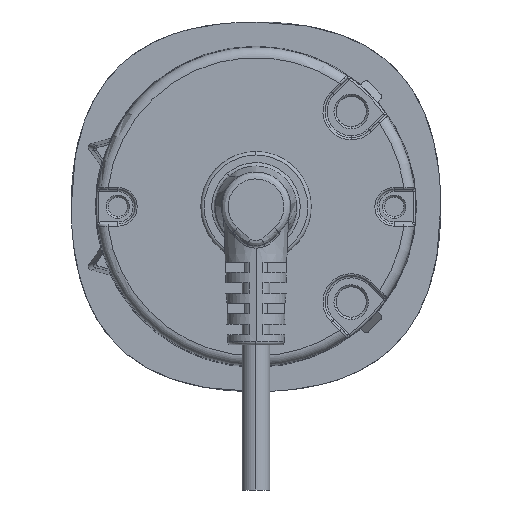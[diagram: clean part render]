
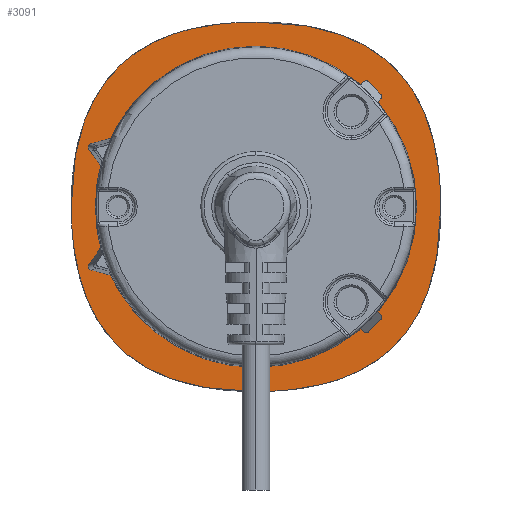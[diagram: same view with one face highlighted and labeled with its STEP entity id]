
A CAD part, front view. The second image highlights one B-rep face of the part: STEP entity #3091.
In plain terms, the highlighted planar face has unit normal (0, -1, 0).
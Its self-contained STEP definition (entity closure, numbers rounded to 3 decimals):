
#2585 = EDGE_CURVE ( 'NONE', #2732, #2731, #18203, .T. ) ;
#2587 = EDGE_CURVE ( 'NONE', #2715, #2716, #19522, .T. ) ;
#2588 = EDGE_CURVE ( 'NONE', #2716, #2718, #19523, .T. ) ;
#2589 = EDGE_CURVE ( 'NONE', #2718, #2717, #19524, .T. ) ;
#2590 = EDGE_CURVE ( 'NONE', #2717, #2715, #19525, .T. ) ;
#2617 = EDGE_CURVE ( 'NONE', #2731, #2732, #18238, .T. ) ;
#2715 = VERTEX_POINT ( 'NONE', #20287 ) ;
#2716 = VERTEX_POINT ( 'NONE', #20288 ) ;
#2717 = VERTEX_POINT ( 'NONE', #20289 ) ;
#2718 = VERTEX_POINT ( 'NONE', #20290 ) ;
#2731 = VERTEX_POINT ( 'NONE', #20303 ) ;
#2732 = VERTEX_POINT ( 'NONE', #20304 ) ;
#2775 = EDGE_LOOP ( 'NONE', ( #2822, #2823, #2824, #2825 ) ) ;
#2779 = EDGE_LOOP ( 'NONE', ( #2826, #2827 ) ) ;
#2822 = ORIENTED_EDGE ( 'NONE', *, *, #2589, .F. ) ;
#2823 = ORIENTED_EDGE ( 'NONE', *, *, #2588, .F. ) ;
#2824 = ORIENTED_EDGE ( 'NONE', *, *, #2587, .F. ) ;
#2825 = ORIENTED_EDGE ( 'NONE', *, *, #2590, .F. ) ;
#2826 = ORIENTED_EDGE ( 'NONE', *, *, #2585, .F. ) ;
#2827 = ORIENTED_EDGE ( 'NONE', *, *, #2617, .F. ) ;
#3091 = ADVANCED_FACE ( 'NONE', ( #18329, #18343 ), #20589, .T. ) ;
#18203 = CIRCLE ( 'NONE', #19254, 23.25 ) ;
#18238 = CIRCLE ( 'NONE', #19259, 23.25 ) ;
#18329 = FACE_OUTER_BOUND ( 'NONE', #2775, .T. ) ;
#18343 = FACE_BOUND ( 'NONE', #2779, .T. ) ;
#19254 = AXIS2_PLACEMENT_3D ( 'NONE', #19739, #19740, #19741 ) ;
#19259 = AXIS2_PLACEMENT_3D ( 'NONE', #20125, #20132, #20133 ) ;
#19284 = AXIS2_PLACEMENT_3D ( 'NONE', #20588, #20597, #20598 ) ;
#19522 = B_SPLINE_CURVE_WITH_KNOTS ( 'NONE', 3,
 ( #19742, #19747, #19748, #19749 ),
 .UNSPECIFIED., .F., .F.,
 ( 4, 4 ),
 ( 0., 1. ),
 .UNSPECIFIED. ) ;
#19523 = B_SPLINE_CURVE_WITH_KNOTS ( 'NONE', 3,
 ( #19745, #19750, #19751, #19752 ),
 .UNSPECIFIED., .F., .F.,
 ( 4, 4 ),
 ( 0., 1. ),
 .UNSPECIFIED. ) ;
#19524 = B_SPLINE_CURVE_WITH_KNOTS ( 'NONE', 3,
 ( #19736, #19754, #19755, #19756 ),
 .UNSPECIFIED., .F., .F.,
 ( 4, 4 ),
 ( 0., 1. ),
 .UNSPECIFIED. ) ;
#19525 = B_SPLINE_CURVE_WITH_KNOTS ( 'NONE', 3,
 ( #19746, #19757, #19758, #19759 ),
 .UNSPECIFIED., .F., .F.,
 ( 4, 4 ),
 ( 0., 1. ),
 .UNSPECIFIED. ) ;
#19736 = CARTESIAN_POINT ( 'NONE',  ( 0., 0., -26.75 ) ) ;
#19739 = CARTESIAN_POINT ( 'NONE',  ( 0., 0., 0. ) ) ;
#19740 = DIRECTION ( 'NONE',  ( 0., -1., 0. ) ) ;
#19741 = DIRECTION ( 'NONE',  ( 0., 0., -1. ) ) ;
#19742 = CARTESIAN_POINT ( 'NONE',  ( 0., 0., 26.75 ) ) ;
#19745 = CARTESIAN_POINT ( 'NONE',  ( 26.75, 0., 0. ) ) ;
#19746 = CARTESIAN_POINT ( 'NONE',  ( -26.75, 0., 0. ) ) ;
#19747 = CARTESIAN_POINT ( 'NONE',  ( 13.667, 0., 26.75 ) ) ;
#19748 = CARTESIAN_POINT ( 'NONE',  ( 26.75, 0., 21.667 ) ) ;
#19749 = CARTESIAN_POINT ( 'NONE',  ( 26.75, 0., 0. ) ) ;
#19750 = CARTESIAN_POINT ( 'NONE',  ( 26.75, 0., -21.667 ) ) ;
#19751 = CARTESIAN_POINT ( 'NONE',  ( 13.667, 0., -26.75 ) ) ;
#19752 = CARTESIAN_POINT ( 'NONE',  ( 0., 0., -26.75 ) ) ;
#19754 = CARTESIAN_POINT ( 'NONE',  ( -13.667, 0., -26.75 ) ) ;
#19755 = CARTESIAN_POINT ( 'NONE',  ( -26.75, 0., -21.667 ) ) ;
#19756 = CARTESIAN_POINT ( 'NONE',  ( -26.75, 0., 0. ) ) ;
#19757 = CARTESIAN_POINT ( 'NONE',  ( -26.75, 0., 21.667 ) ) ;
#19758 = CARTESIAN_POINT ( 'NONE',  ( -13.667, 0., 26.75 ) ) ;
#19759 = CARTESIAN_POINT ( 'NONE',  ( 0., 0., 26.75 ) ) ;
#20125 = CARTESIAN_POINT ( 'NONE',  ( 0., 0., 0. ) ) ;
#20132 = DIRECTION ( 'NONE',  ( 0., -1., 0. ) ) ;
#20133 = DIRECTION ( 'NONE',  ( 0., 0., -1. ) ) ;
#20287 = CARTESIAN_POINT ( 'NONE',  ( 0., 0., 26.75 ) ) ;
#20288 = CARTESIAN_POINT ( 'NONE',  ( 26.75, 0., 0. ) ) ;
#20289 = CARTESIAN_POINT ( 'NONE',  ( -26.75, 0., 0. ) ) ;
#20290 = CARTESIAN_POINT ( 'NONE',  ( 0., 0., -26.75 ) ) ;
#20303 = CARTESIAN_POINT ( 'NONE',  ( 0., 0., -23.25 ) ) ;
#20304 = CARTESIAN_POINT ( 'NONE',  ( 0., 0., 23.25 ) ) ;
#20588 = CARTESIAN_POINT ( 'NONE',  ( -18.5, 0., -21.5 ) ) ;
#20589 = PLANE ( 'NONE',  #19284 ) ;
#20597 = DIRECTION ( 'NONE',  ( 0., -1., 0. ) ) ;
#20598 = DIRECTION ( 'NONE',  ( 0., 0., -1. ) ) ;
